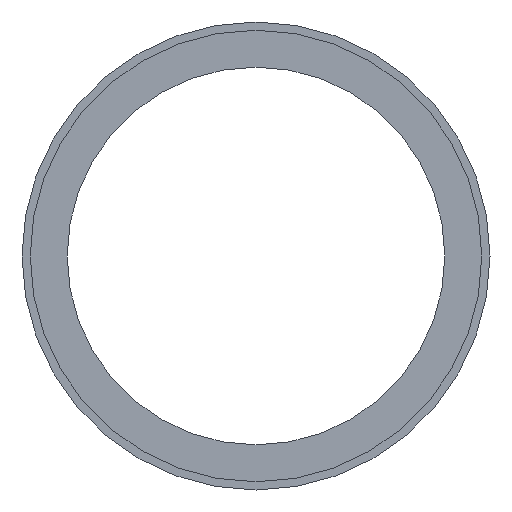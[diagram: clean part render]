
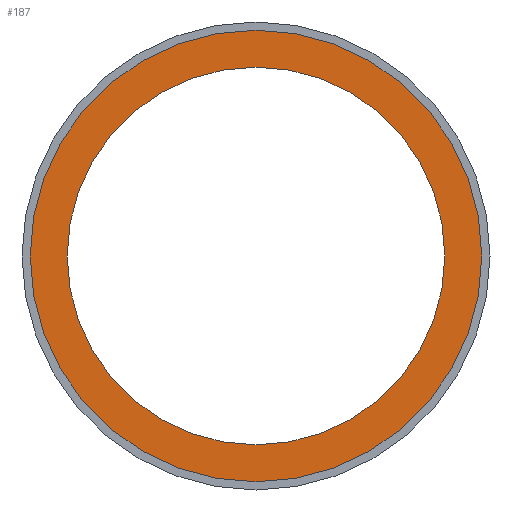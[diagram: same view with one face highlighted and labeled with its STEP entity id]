
A CAD part, front view. The second image highlights one B-rep face of the part: STEP entity #187.
In plain terms, the highlighted planar face has unit normal (0, -1, 0).
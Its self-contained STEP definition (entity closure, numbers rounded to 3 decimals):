
#1 = VERTEX_POINT ( 'NONE', #181 ) ;
#7 = DIRECTION ( 'NONE',  ( 0., -1., 0. ) ) ;
#17 = ORIENTED_EDGE ( 'NONE', *, *, #223, .T. ) ;
#24 = CARTESIAN_POINT ( 'NONE',  ( 0., 4.35, 0. ) ) ;
#31 = AXIS2_PLACEMENT_3D ( 'NONE', #158, #102, #275 ) ;
#47 = AXIS2_PLACEMENT_3D ( 'NONE', #77, #80, #186 ) ;
#73 = AXIS2_PLACEMENT_3D ( 'NONE', #159, #214, #370 ) ;
#77 = CARTESIAN_POINT ( 'NONE',  ( 0., 4.35, 0. ) ) ;
#80 = DIRECTION ( 'NONE',  ( 0., -1., 0. ) ) ;
#100 = EDGE_CURVE ( 'NONE', #333, #113, #360, .T. ) ;
#102 = DIRECTION ( 'NONE',  ( 0., -1., 0. ) ) ;
#105 = PLANE ( 'NONE',  #73 ) ;
#113 = VERTEX_POINT ( 'NONE', #133 ) ;
#119 = CIRCLE ( 'NONE', #342, 27.5 ) ;
#131 = CIRCLE ( 'NONE', #31, 27.5 ) ;
#133 = CARTESIAN_POINT ( 'NONE',  ( 0., 4.35, 23. ) ) ;
#158 = CARTESIAN_POINT ( 'NONE',  ( 0., 4.35, 0. ) ) ;
#159 = CARTESIAN_POINT ( 'NONE',  ( 23., 4.35, 0. ) ) ;
#163 = ORIENTED_EDGE ( 'NONE', *, *, #195, .F. ) ;
#164 = DIRECTION ( 'NONE',  ( 0., 0., -1. ) ) ;
#181 = CARTESIAN_POINT ( 'NONE',  ( 0., 4.35, 27.5 ) ) ;
#183 = FACE_OUTER_BOUND ( 'NONE', #244, .T. ) ;
#184 = DIRECTION ( 'NONE',  ( 0., -1., 0. ) ) ;
#186 = DIRECTION ( 'NONE',  ( 0., 0., -1. ) ) ;
#187 = ADVANCED_FACE ( 'NONE', ( #183, #249 ), #105, .T. ) ;
#193 = ORIENTED_EDGE ( 'NONE', *, *, #211, .T. ) ;
#195 = EDGE_CURVE ( 'NONE', #113, #333, #320, .T. ) ;
#211 = EDGE_CURVE ( 'NONE', #248, #1, #131, .T. ) ;
#214 = DIRECTION ( 'NONE',  ( 0., -1., 0. ) ) ;
#223 = EDGE_CURVE ( 'NONE', #1, #248, #119, .T. ) ;
#232 = ORIENTED_EDGE ( 'NONE', *, *, #100, .F. ) ;
#234 = EDGE_LOOP ( 'NONE', ( #232, #163 ) ) ;
#244 = EDGE_LOOP ( 'NONE', ( #193, #17 ) ) ;
#248 = VERTEX_POINT ( 'NONE', #341 ) ;
#249 = FACE_BOUND ( 'NONE', #234, .T. ) ;
#260 = AXIS2_PLACEMENT_3D ( 'NONE', #24, #184, #306 ) ;
#264 = CARTESIAN_POINT ( 'NONE',  ( 0., 4.35, 0. ) ) ;
#267 = CARTESIAN_POINT ( 'NONE',  ( 0., 4.35, -23. ) ) ;
#275 = DIRECTION ( 'NONE',  ( 0., 0., -1. ) ) ;
#306 = DIRECTION ( 'NONE',  ( 0., 0., -1. ) ) ;
#320 = CIRCLE ( 'NONE', #47, 23. ) ;
#333 = VERTEX_POINT ( 'NONE', #267 ) ;
#341 = CARTESIAN_POINT ( 'NONE',  ( 0., 4.35, -27.5 ) ) ;
#342 = AXIS2_PLACEMENT_3D ( 'NONE', #264, #7, #164 ) ;
#360 = CIRCLE ( 'NONE', #260, 23. ) ;
#370 = DIRECTION ( 'NONE',  ( 0., 0., -1. ) ) ;
